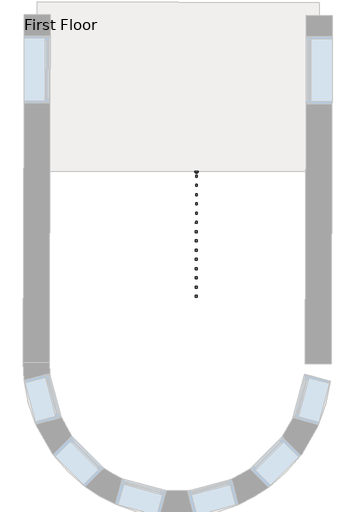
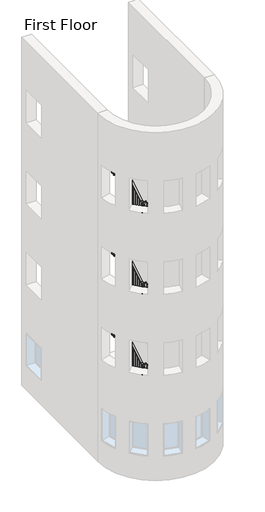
# One storey, part 19 of 23: 1 railing.
"""IFC4 building model written with IfcOpenShell, lengths in millimetres."""

from ifc_helpers import new_model, si_unit, frame, origin, place, context, project, spatial, polyline, outline, extrude, faceted_brep, element, save

model = new_model("IFC4")

# Units and contexts
model_context = context("Model", 3, world=origin())
ifc_project = project(units=[si_unit("LENGTHUNIT", "METRE", prefix="MILLI")], contexts=[model_context])

# Site, building, storey
site = spatial("IfcSite", under=ifc_project)
building = spatial("IfcBuilding", under=site)
storey = spatial("IfcBuildingStorey", under=building, Name="First Floor", Elevation=0.0)

# Railing
placement = place(None, origin())
element("IfcRailing", 1, ObjectType="1100mm", at=placement, inside=storey, context=model_context, shape_type="SolidModel", body=[
    faceted_brep([(-18732.1206493, -38141.9127761, 7347.2483627), (-18732.1206493, -38141.9127761, 7288.5702219), (-18782.1204398, -38141.7680334, 7288.5702219), (-18782.1204398, -38141.7680334, 7347.2483627), (-18738.3746917, -40302.3037238, 8674.1801914), (-18738.5194344, -40352.3035143, 8646.2123781), (-18788.5192249, -40352.1587716, 8646.2123781), (-18788.3744822, -40302.1589811, 8674.1801914), (-18738.3746917, -40302.3037238, 8720.0), (-18738.5194344, -40352.3035143, 8670.0), (-18788.5192249, -40352.1587716, 8670.0), (-18788.3744822, -40302.1589811, 8720.0), (-18738.7365484, -40427.3032001, 8720.0), (-18738.7365484, -40427.3032001, 8670.0), (-18788.5915962, -40377.1586669, 8670.0), (-18788.5915962, -40377.1586669, 8720.0), (-18863.7360247, -40426.9413433, 8720.0), (-18863.7360247, -40426.9413433, 8670.0), (-18863.591282, -40376.9415528, 8670.0), (-18863.591282, -40376.9415528, 8720.0), (-19170.5347391, -40426.0532021, 8720.0), (-19220.5345296, -40425.9084595, 8670.0), (-19220.3897869, -40375.908669, 8670.0), (-19170.3899964, -40376.0534117, 8720.0), (-19170.5347391, -40426.0532021, 8917.87616), (-19220.5345296, -40425.9084595, 8867.87616), (-19220.3897869, -40375.908669, 8867.87616), (-19170.3899964, -40376.0534117, 8917.87616), (-19295.5342154, -40425.6913454, 8917.87616), (-19295.5342154, -40425.6913454, 8867.87616), (-19245.3896822, -40375.8362976, 8867.87616), (-19245.3896822, -40375.8362976, 8917.87616), (-19295.1723586, -40300.6918692, 8917.87616), (-19295.131719, -40286.6533396, 8867.87616), (-19245.1319285, -40286.7980823, 8867.87616), (-19245.1725681, -40300.8366119, 8917.87616), (-19288.9183162, -38140.3009215, 10234.856), (-19238.9185257, -38140.4456642, 10234.856), (-19238.9185257, -38140.4456642, 10176.2980765), (-19288.9183162, -38140.3009215, 10176.2980765)], [[[0, 1, 2, 3]], [[1, 0, 4, 5]], [[2, 1, 5, 6]], [[3, 2, 6, 7]], [[0, 3, 7, 4]], [[5, 4, 8, 9]], [[6, 5, 9, 10]], [[7, 6, 10, 11]], [[4, 7, 11, 8]], [[9, 8, 12, 13]], [[10, 9, 13, 14]], [[11, 10, 14, 15]], [[8, 11, 15, 12]], [[13, 12, 16, 17]], [[14, 13, 17, 18]], [[15, 14, 18, 19]], [[12, 15, 19, 16]], [[17, 16, 20, 21]], [[18, 17, 21, 22]], [[19, 18, 22, 23]], [[16, 19, 23, 20]], [[21, 20, 24, 25]], [[22, 21, 25, 26]], [[23, 22, 26, 27]], [[20, 23, 27, 24]], [[25, 24, 28, 29]], [[26, 25, 29, 30]], [[27, 26, 30, 31]], [[24, 27, 31, 28]], [[29, 28, 32, 33]], [[30, 29, 33, 34]], [[31, 30, 34, 35]], [[28, 31, 35, 32]], [[36, 37, 38, 39]], [[33, 32, 36, 39]], [[34, 33, 39, 38]], [[35, 34, 38, 37]], [[32, 35, 37, 36]]]),
    faceted_brep([(-18732.1206493, -38141.9127761, 4299.2483627), (-18732.1206493, -38141.9127761, 4240.5702219), (-18782.1204398, -38141.7680334, 4240.5702219), (-18782.1204398, -38141.7680334, 4299.2483627), (-18738.3746917, -40302.3037238, 5626.1801914), (-18738.5194344, -40352.3035143, 5598.2123781), (-18788.5192249, -40352.1587716, 5598.2123781), (-18788.3744822, -40302.1589811, 5626.1801914), (-18738.3746917, -40302.3037238, 5672.0), (-18738.5194344, -40352.3035143, 5622.0), (-18788.5192249, -40352.1587716, 5622.0), (-18788.3744822, -40302.1589811, 5672.0), (-18738.7365484, -40427.3032001, 5672.0), (-18738.7365484, -40427.3032001, 5622.0), (-18788.5915962, -40377.1586669, 5622.0), (-18788.5915962, -40377.1586669, 5672.0), (-18863.7360247, -40426.9413433, 5672.0), (-18863.7360247, -40426.9413433, 5622.0), (-18863.591282, -40376.9415528, 5622.0), (-18863.591282, -40376.9415528, 5672.0), (-19170.5347391, -40426.0532021, 5672.0), (-19220.5345296, -40425.9084595, 5622.0), (-19220.3897869, -40375.908669, 5622.0), (-19170.3899964, -40376.0534117, 5672.0), (-19170.5347391, -40426.0532021, 5869.87616), (-19220.5345296, -40425.9084595, 5819.87616), (-19220.3897869, -40375.908669, 5819.87616), (-19170.3899964, -40376.0534117, 5869.87616), (-19295.5342154, -40425.6913454, 5869.87616), (-19295.5342154, -40425.6913454, 5819.87616), (-19245.3896822, -40375.8362976, 5819.87616), (-19245.3896822, -40375.8362976, 5869.87616), (-19295.1723586, -40300.6918692, 5869.87616), (-19295.131719, -40286.6533396, 5819.87616), (-19245.1319285, -40286.7980823, 5819.87616), (-19245.1725681, -40300.8366119, 5869.87616), (-19288.9183162, -38140.3009215, 7186.856), (-19238.9185257, -38140.4456642, 7186.856), (-19238.9185257, -38140.4456642, 7128.2980765), (-19288.9183162, -38140.3009215, 7128.2980765)], [[[0, 1, 2, 3]], [[1, 0, 4, 5]], [[2, 1, 5, 6]], [[3, 2, 6, 7]], [[0, 3, 7, 4]], [[5, 4, 8, 9]], [[6, 5, 9, 10]], [[7, 6, 10, 11]], [[4, 7, 11, 8]], [[9, 8, 12, 13]], [[10, 9, 13, 14]], [[11, 10, 14, 15]], [[8, 11, 15, 12]], [[13, 12, 16, 17]], [[14, 13, 17, 18]], [[15, 14, 18, 19]], [[12, 15, 19, 16]], [[17, 16, 20, 21]], [[18, 17, 21, 22]], [[19, 18, 22, 23]], [[16, 19, 23, 20]], [[21, 20, 24, 25]], [[22, 21, 25, 26]], [[23, 22, 26, 27]], [[20, 23, 27, 24]], [[25, 24, 28, 29]], [[26, 25, 29, 30]], [[27, 26, 30, 31]], [[24, 27, 31, 28]], [[29, 28, 32, 33]], [[30, 29, 33, 34]], [[31, 30, 34, 35]], [[28, 31, 35, 32]], [[36, 37, 38, 39]], [[33, 32, 36, 39]], [[34, 33, 39, 38]], [[35, 34, 38, 37]], [[32, 35, 37, 36]]]),
    faceted_brep([(-18732.1206493, -38141.9127761, 1251.2483627), (-18732.1206493, -38141.9127761, 1192.5702219), (-18782.1204398, -38141.7680334, 1192.5702219), (-18782.1204398, -38141.7680334, 1251.2483627), (-18738.3746917, -40302.3037238, 2578.1801914), (-18738.5194344, -40352.3035143, 2550.2123781), (-18788.5192249, -40352.1587716, 2550.2123781), (-18788.3744822, -40302.1589811, 2578.1801914), (-18738.3746917, -40302.3037238, 2624.0), (-18738.5194344, -40352.3035143, 2574.0), (-18788.5192249, -40352.1587716, 2574.0), (-18788.3744822, -40302.1589811, 2624.0), (-18738.7365484, -40427.3032001, 2624.0), (-18738.7365484, -40427.3032001, 2574.0), (-18788.5915962, -40377.1586669, 2574.0), (-18788.5915962, -40377.1586669, 2624.0), (-18863.7360247, -40426.9413433, 2624.0), (-18863.7360247, -40426.9413433, 2574.0), (-18863.591282, -40376.9415528, 2574.0), (-18863.591282, -40376.9415528, 2624.0), (-19170.5347391, -40426.0532021, 2624.0), (-19220.5345296, -40425.9084595, 2574.0), (-19220.3897869, -40375.908669, 2574.0), (-19170.3899964, -40376.0534117, 2624.0), (-19170.5347391, -40426.0532021, 2821.87616), (-19220.5345296, -40425.9084595, 2771.87616), (-19220.3897869, -40375.908669, 2771.87616), (-19170.3899964, -40376.0534117, 2821.87616), (-19295.5342154, -40425.6913454, 2821.87616), (-19295.5342154, -40425.6913454, 2771.87616), (-19245.3896822, -40375.8362976, 2771.87616), (-19245.3896822, -40375.8362976, 2821.87616), (-19295.1723586, -40300.6918692, 2821.87616), (-19295.131719, -40286.6533396, 2771.87616), (-19245.1319285, -40286.7980823, 2771.87616), (-19245.1725681, -40300.8366119, 2821.87616), (-19288.9183162, -38140.3009215, 4138.856), (-19238.9185257, -38140.4456642, 4138.856), (-19238.9185257, -38140.4456642, 4080.2980765), (-19288.9183162, -38140.3009215, 4080.2980765)], [[[0, 1, 2, 3]], [[1, 0, 4, 5]], [[2, 1, 5, 6]], [[3, 2, 6, 7]], [[0, 3, 7, 4]], [[5, 4, 8, 9]], [[6, 5, 9, 10]], [[7, 6, 10, 11]], [[4, 7, 11, 8]], [[9, 8, 12, 13]], [[10, 9, 13, 14]], [[11, 10, 14, 15]], [[8, 11, 15, 12]], [[13, 12, 16, 17]], [[14, 13, 17, 18]], [[15, 14, 18, 19]], [[12, 15, 19, 16]], [[17, 16, 20, 21]], [[18, 17, 21, 22]], [[19, 18, 22, 23]], [[16, 19, 23, 20]], [[21, 20, 24, 25]], [[22, 21, 25, 26]], [[23, 22, 26, 27]], [[20, 23, 27, 24]], [[25, 24, 28, 29]], [[26, 25, 29, 30]], [[27, 26, 30, 31]], [[24, 27, 31, 28]], [[29, 28, 32, 33]], [[30, 29, 33, 34]], [[31, 30, 34, 35]], [[28, 31, 35, 32]], [[36, 37, 38, 39]], [[33, 32, 36, 39]], [[34, 33, 39, 38]], [[35, 34, 38, 37]], [[32, 35, 37, 36]]]),
    extrude(outline(polyline([(107.62, 0.0), (1240.2582365, 0.0), (1240.2582365, -25.0), (92.38, -25.0), (107.62, 0.0)])), frame((-19251.6656939, -38225.8091206, 10231.8582365), z_axis=(-0.9999958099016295, 0.002894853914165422, 0.0), x_axis=(0.0, 0.0, -1.0)), (0.0, 0.0, 1.0), 25.0),
    extrude(outline(polyline([(107.62, 0.0), (1164.0582365, 0.0), (1164.0582365, -25.0000001), (92.38, -25.0000001), (107.62, 0.0)])), frame((-19252.0275506, -38350.8085969, 10155.6582365), z_axis=(-0.9999958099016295, 0.002894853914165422, 0.0), x_axis=(0.0, 0.0, -1.0)), (0.0, 0.0, 1.0), 25.0),
    extrude(outline(polyline([(107.62, 0.0), (1240.2582365, 0.0), (1240.2582365, -25.0), (92.38, -25.0), (107.62, 0.0)])), frame((-19252.3894074, -38475.8080731, 10079.4582365), z_axis=(-0.9999958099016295, 0.002894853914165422, 0.0), x_axis=(0.0, 0.0, -1.0)), (0.0, 0.0, 1.0), 25.0),
    extrude(outline(polyline([(107.62, 0.0), (1164.0582365, 0.0), (1164.0582365, -25.0000001), (92.38, -25.0000001), (107.62, 0.0)])), frame((-19252.7512641, -38600.8075494, 10003.2582365), z_axis=(-0.9999958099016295, 0.002894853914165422, 0.0), x_axis=(0.0, 0.0, -1.0)), (0.0, 0.0, 1.0), 25.0),
    extrude(outline(polyline([(107.62, 0.0), (1240.2582365, 0.0), (1240.2582365, -25.0), (92.38, -25.0), (107.62, 0.0)])), frame((-19253.1131209, -38725.8070256, 9927.0582365), z_axis=(-0.9999958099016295, 0.002894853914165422, 0.0), x_axis=(0.0, 0.0, -1.0)), (0.0, 0.0, 1.0), 25.0),
    extrude(outline(polyline([(107.62, 0.0), (1164.0582365, 0.0), (1164.0582365, -25.0), (92.38, -25.0), (107.62, 0.0)])), frame((-19253.4749776, -38850.8065018, 9850.8582365), z_axis=(-0.9999958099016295, 0.002894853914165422, 0.0), x_axis=(0.0, 0.0, -1.0)), (0.0, 0.0, 1.0), 25.0),
    extrude(outline(polyline([(107.62, 0.0), (1240.2582365, 0.0), (1240.2582365, -25.0000001), (92.38, -25.0000001), (107.62, 0.0)])), frame((-19253.8368343, -38975.8059781, 9774.6582365), z_axis=(-0.9999958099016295, 0.002894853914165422, 0.0), x_axis=(0.0, 0.0, -1.0)), (0.0, 0.0, 1.0), 25.0),
    extrude(outline(polyline([(107.62, 0.0), (1164.0582365, 0.0), (1164.0582365, -25.0), (92.38, -25.0), (107.62, 0.0)])), frame((-19254.1986911, -39100.8054543, 9698.4582365), z_axis=(-0.9999958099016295, 0.002894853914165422, 0.0), x_axis=(0.0, 0.0, -1.0)), (0.0, 0.0, 1.0), 25.0),
    extrude(outline(polyline([(107.62, 0.0), (1240.2582365, 0.0), (1240.2582365, -25.0), (92.38, -25.0), (107.62, 0.0)])), frame((-19254.5605478, -39225.8049305, 9622.2582365), z_axis=(-0.9999958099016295, 0.002894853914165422, 0.0), x_axis=(0.0, 0.0, -1.0)), (0.0, 0.0, 1.0), 25.0),
    extrude(outline(polyline([(107.62, 0.0), (1164.0582365, 0.0), (1164.0582365, -25.0000001), (92.38, -25.0000001), (107.62, 0.0)])), frame((-19254.9224045, -39350.8044068, 9546.0582365), z_axis=(-0.9999958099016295, 0.002894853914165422, 0.0), x_axis=(0.0, 0.0, -1.0)), (0.0, 0.0, 1.0), 25.0),
    extrude(outline(polyline([(107.62, 0.0), (1240.2582365, 0.0), (1240.2582365, -25.0), (92.38, -25.0), (107.62, 0.0)])), frame((-19255.2842613, -39475.803883, 9469.8582365), z_axis=(-0.9999958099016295, 0.002894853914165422, 0.0), x_axis=(0.0, 0.0, -1.0)), (0.0, 0.0, 1.0), 25.0),
    extrude(outline(polyline([(107.62, 0.0), (1164.0582365, 0.0), (1164.0582365, -25.0000001), (92.38, -25.0000001), (107.62, 0.0)])), frame((-19255.646118, -39600.8033593, 9393.6582365), z_axis=(-0.9999958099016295, 0.002894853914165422, 0.0), x_axis=(0.0, 0.0, -1.0)), (0.0, 0.0, 1.0), 25.0),
    extrude(outline(polyline([(107.62, 0.0), (1240.2582365, 0.0), (1240.2582365, -25.0), (92.38, -25.0), (107.62, 0.0)])), frame((-19256.0079748, -39725.8028355, 9317.4582365), z_axis=(-0.9999958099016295, 0.002894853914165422, 0.0), x_axis=(0.0, 0.0, -1.0)), (0.0, 0.0, 1.0), 25.0),
    extrude(outline(polyline([(107.62, 0.0), (1164.0582365, 0.0), (1164.0582365, -25.0), (92.38, -25.0), (107.62, 0.0)])), frame((-19256.3698315, -39850.8023117, 9241.2582365), z_axis=(-0.9999958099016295, 0.002894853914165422, 0.0), x_axis=(0.0, 0.0, -1.0)), (0.0, 0.0, 1.0), 25.0),
    extrude(outline(polyline([(107.62, 0.0), (1240.2582365, 0.0), (1240.2582365, -25.0000001), (92.38, -25.0000001), (107.62, 0.0)])), frame((-19256.7316882, -39975.801788, 9165.0582365), z_axis=(-0.9999958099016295, 0.002894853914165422, 0.0), x_axis=(0.0, 0.0, -1.0)), (0.0, 0.0, 1.0), 25.0),
    extrude(outline(polyline([(107.62, 0.0), (1164.0582365, 0.0), (1164.0582365, -25.0), (92.38, -25.0), (107.62, 0.0)])), frame((-19257.093545, -40100.8012642, 9088.8582365), z_axis=(-0.9999958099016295, 0.002894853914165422, 0.0), x_axis=(0.0, 0.0, -1.0)), (0.0, 0.0, 1.0), 25.0),
    extrude(outline(polyline([(107.62, 0.0), (1240.2582365, 0.0), (1240.2582365, -25.0000001), (92.38, -25.0000001), (107.62, 0.0)])), frame((-19257.4554017, -40225.8007405, 9012.6582365), z_axis=(-0.9999958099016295, 0.002894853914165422, 0.0), x_axis=(0.0, 0.0, -1.0)), (0.0, 0.0, 1.0), 25.0),
    extrude(outline(polyline([(-19257.8172585, -40350.8002167), (-19282.8171537, -40350.7278453), (-19282.7447824, -40325.7279501), (-19257.7448871, -40325.8003214), (-19257.8172585, -40350.8002167)])), frame((0.0, 0.0, 7772.4), z_axis=(0.0, 0.0, 1.0), x_axis=(1.0, 0.0, 0.0)), (0.0, 0.0, 1.0), 1095.47616),
    extrude(outline(polyline([(-19188.6261059, -40388.5006729), (-19188.6984772, -40413.5005682), (-19213.6983725, -40413.4281968), (-19213.6260011, -40388.4283016), (-19188.6261059, -40388.5006729)])), frame((0.0, 0.0, 7620.0), z_axis=(0.0, 0.0, 1.0), x_axis=(1.0, 0.0, 0.0)), (0.0, 0.0, 1.0), 1050.0),
    extrude(outline(polyline([(-19063.6266296, -40388.8625297), (-19063.699001, -40413.8624249), (-19088.6988962, -40413.7900536), (-19088.6265249, -40388.7901583), (-19063.6266296, -40388.8625297)])), frame((0.0, 0.0, 7620.0), z_axis=(0.0, 0.0, 1.0), x_axis=(1.0, 0.0, 0.0)), (0.0, 0.0, 1.0), 1050.0),
    extrude(outline(polyline([(-18938.6271534, -40389.2243864), (-18938.6995247, -40414.2242817), (-18963.69942, -40414.1519103), (-18963.6270486, -40389.1520151), (-18938.6271534, -40389.2243864)])), frame((0.0, 0.0, 7620.0), z_axis=(0.0, 0.0, 1.0), x_axis=(1.0, 0.0, 0.0)), (0.0, 0.0, 1.0), 1050.0),
    extrude(outline(polyline([(-18813.6276771, -40389.5862432), (-18813.7000485, -40414.5861384), (-18838.6999437, -40414.5137671), (-18838.6275724, -40389.5138718), (-18813.6276771, -40389.5862432)])), frame((0.0, 0.0, 7620.0), z_axis=(0.0, 0.0, 1.0), x_axis=(1.0, 0.0, 0.0)), (0.0, 0.0, 1.0), 1050.0),
    extrude(outline(polyline([(1264.5470481, -25.0), (107.6775819, -25.0), (92.3224182, 0.0), (1264.5470481, 0.0), (1264.5470481, -25.0)])), frame((-18750.9892755, -40341.8673722, 8732.1470481), z_axis=(-0.9999958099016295, 0.00289485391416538, 0.0), x_axis=(0.0, 0.0, -1.0)), (0.0, 0.0, 1.0), 25.0),
    extrude(outline(polyline([(1187.7712294, -25.0000001), (107.6775818, -25.0000001), (92.3224181, 0.0), (1187.7712294, 0.0), (1187.7712294, -25.0000001)])), frame((-18750.6274188, -40216.867896, 8655.3712294), z_axis=(-0.9999958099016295, 0.00289485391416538, 0.0), x_axis=(0.0, 0.0, -1.0)), (0.0, 0.0, 1.0), 25.0),
    extrude(outline(polyline([(1263.3954108, -25.0000001), (107.6775819, -25.0000001), (92.3224181, 0.0), (1263.3954108, 0.0), (1263.3954108, -25.0000001)])), frame((-18750.265562, -40091.8684198, 8578.5954108), z_axis=(-0.9999958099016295, 0.00289485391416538, 0.0), x_axis=(0.0, 0.0, -1.0)), (0.0, 0.0, 1.0), 25.0),
    extrude(outline(polyline([(1186.6195922, -25.0), (107.6775819, -25.0), (92.3224182, 0.0), (1186.6195922, 0.0), (1186.6195922, -25.0)])), frame((-18749.9037053, -39966.8689435, 8501.8195922), z_axis=(-0.9999958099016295, 0.00289485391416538, 0.0), x_axis=(0.0, 0.0, -1.0)), (0.0, 0.0, 1.0), 25.0),
    extrude(outline(polyline([(1262.2437735, -25.0000001), (107.6775818, -25.0000001), (92.3224181, 0.0), (1262.2437735, 0.0), (1262.2437735, -25.0000001)])), frame((-18749.5418486, -39841.8694673, 8425.0437735), z_axis=(-0.9999958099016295, 0.00289485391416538, 0.0), x_axis=(0.0, 0.0, -1.0)), (0.0, 0.0, 1.0), 25.0),
    extrude(outline(polyline([(1185.4679549, -25.0), (107.6775819, -25.0), (92.3224182, 0.0), (1185.4679549, 0.0), (1185.4679549, -25.0)])), frame((-18749.1799918, -39716.869991, 8348.2679549), z_axis=(-0.9999958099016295, 0.00289485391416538, 0.0), x_axis=(0.0, 0.0, -1.0)), (0.0, 0.0, 1.0), 25.0),
    extrude(outline(polyline([(1261.0921362, -25.0), (107.6775818, -25.0), (92.3224181, 0.0), (1261.0921362, 0.0), (1261.0921362, -25.0)])), frame((-18748.8181351, -39591.8705148, 8271.4921362), z_axis=(-0.9999958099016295, 0.00289485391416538, 0.0), x_axis=(0.0, 0.0, -1.0)), (0.0, 0.0, 1.0), 25.0),
    extrude(outline(polyline([(1184.3163176, -25.0000001), (107.6775819, -25.0000001), (92.3224181, 0.0), (1184.3163176, 0.0), (1184.3163176, -25.0000001)])), frame((-18748.4562783, -39466.8710386, 8194.7163176), z_axis=(-0.9999958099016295, 0.00289485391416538, 0.0), x_axis=(0.0, 0.0, -1.0)), (0.0, 0.0, 1.0), 25.0),
    extrude(outline(polyline([(1259.940499, -25.0), (107.6775819, -25.0), (92.3224182, 0.0), (1259.940499, 0.0), (1259.940499, -25.0)])), frame((-18748.0944216, -39341.8715623, 8117.940499), z_axis=(-0.9999958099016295, 0.00289485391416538, 0.0), x_axis=(0.0, 0.0, -1.0)), (0.0, 0.0, 1.0), 25.0),
    extrude(outline(polyline([(1183.1646803, -25.0000001), (107.6775818, -25.0000001), (92.3224181, 0.0), (1183.1646803, 0.0), (1183.1646803, -25.0000001)])), frame((-18747.7325649, -39216.8720861, 8041.1646803), z_axis=(-0.9999958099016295, 0.00289485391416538, 0.0), x_axis=(0.0, 0.0, -1.0)), (0.0, 0.0, 1.0), 25.0),
    extrude(outline(polyline([(1258.7888617, -25.0000001), (107.6775819, -25.0000001), (92.3224182, 0.0), (1258.7888617, 0.0), (1258.7888617, -25.0000001)])), frame((-18747.3707081, -39091.8726099, 7964.3888617), z_axis=(-0.9999958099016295, 0.00289485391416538, 0.0), x_axis=(0.0, 0.0, -1.0)), (0.0, 0.0, 1.0), 25.0),
    extrude(outline(polyline([(1182.013043, -25.0), (107.6775818, -25.0), (92.3224181, 0.0), (1182.013043, 0.0), (1182.013043, -25.0)])), frame((-18747.0088514, -38966.8731336, 7887.613043), z_axis=(-0.9999958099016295, 0.00289485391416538, 0.0), x_axis=(0.0, 0.0, -1.0)), (0.0, 0.0, 1.0), 25.0),
    extrude(outline(polyline([(1257.6372244, -25.0000001), (107.6775819, -25.0000001), (92.3224181, 0.0), (1257.6372244, 0.0), (1257.6372244, -25.0000001)])), frame((-18746.6469947, -38841.8736574, 7810.8372244), z_axis=(-0.9999958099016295, 0.00289485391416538, 0.0), x_axis=(0.0, 0.0, -1.0)), (0.0, 0.0, 1.0), 25.0),
    extrude(outline(polyline([(1180.8614058, -25.0), (107.6775819, -25.0), (92.3224182, 0.0), (1180.8614058, 0.0), (1180.8614058, -25.0)])), frame((-18746.2851379, -38716.8741811, 7734.0614058), z_axis=(-0.9999958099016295, 0.00289485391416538, 0.0), x_axis=(0.0, 0.0, -1.0)), (0.0, 0.0, 1.0), 25.0),
    extrude(outline(polyline([(1256.4855871, -25.0), (107.6775818, -25.0), (92.3224181, 0.0), (1256.4855871, 0.0), (1256.4855871, -25.0)])), frame((-18745.9232812, -38591.8747049, 7657.2855871), z_axis=(-0.9999958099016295, 0.00289485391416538, 0.0), x_axis=(0.0, 0.0, -1.0)), (0.0, 0.0, 1.0), 25.0),
    extrude(outline(polyline([(1179.7097685, -25.0000001), (107.6775819, -25.0000001), (92.3224182, 0.0), (1179.7097685, 0.0), (1179.7097685, -25.0000001)])), frame((-18745.5614244, -38466.8752287, 7580.5097685), z_axis=(-0.9999958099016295, 0.00289485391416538, 0.0), x_axis=(0.0, 0.0, -1.0)), (0.0, 0.0, 1.0), 25.0),
    extrude(outline(polyline([(1255.3339498, -25.0), (107.6775818, -25.0), (92.3224181, 0.0), (1255.3339498, 0.0), (1255.3339498, -25.0)])), frame((-18745.1995677, -38341.8757524, 7503.7339498), z_axis=(-0.9999958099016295, 0.00289485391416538, 0.0), x_axis=(0.0, 0.0, -1.0)), (0.0, 0.0, 1.0), 25.0),
    extrude(outline(polyline([(1178.5581312, -25.0000001), (107.6775819, -25.0000001), (92.3224181, 0.0), (1178.5581312, 0.0), (1178.5581312, -25.0000001)])), frame((-18744.837711, -38216.8762762, 7426.9581312), z_axis=(-0.9999958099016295, 0.00289485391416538, 0.0), x_axis=(0.0, 0.0, -1.0)), (0.0, 0.0, 1.0), 25.0),
    extrude(outline(polyline([(-19257.9981868, -40413.2999548), (-19282.9980821, -40413.2275835), (-19282.9257107, -40388.2276882), (-19257.9258155, -40388.3000596), (-19257.9981868, -40413.2999548)])), frame((0.0, 0.0, 7620.0), z_axis=(0.0, 0.0, 1.0), x_axis=(1.0, 0.0, 0.0)), (0.0, 0.0, 1.0), 1247.87616),
    extrude(outline(polyline([(-18776.1278343, -40389.6948002), (-18751.127939, -40389.7671715), (-18751.2003104, -40414.7670668), (-18776.2002056, -40414.6946954), (-18776.1278343, -40389.6948002)])), frame((0.0, 0.0, 7620.0), z_axis=(0.0, 0.0, 1.0), x_axis=(1.0, 0.0, 0.0)), (0.0, 0.0, 1.0), 1050.0),
    extrude(outline(polyline([(-18776.054305, -40364.2949066), (-18751.0544097, -40364.367278), (-18751.1267811, -40389.3671732), (-18776.1266763, -40389.2948019), (-18776.054305, -40364.2949066)])), frame((0.0, 0.0, 7620.0), z_axis=(0.0, 0.0, 1.0), x_axis=(1.0, 0.0, 0.0)), (0.0, 0.0, 1.0), 1050.0),
    extrude(outline(polyline([(107.62, 0.0), (1277.0780765, 0.0), (1277.0780765, -25.0), (92.38, -25.0), (107.62, 0.0)])), frame((-19251.4908447, -38165.4093737, 10268.6780765), z_axis=(-0.9999958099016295, 0.002894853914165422, 0.0), x_axis=(0.0, 0.0, -1.0)), (0.0, 0.0, 1.0), 25.0),
    extrude(outline(polyline([(1147.8478037, -25.0000001), (107.6775818, -25.0000001), (92.3224181, 0.0), (1147.8478037, 0.0), (1147.8478037, -25.0000001)])), frame((-18744.6929683, -38166.8764857, 7396.2478037), z_axis=(-0.9999958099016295, 0.00289485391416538, 0.0), x_axis=(0.0, 0.0, -1.0)), (0.0, 0.0, 1.0), 25.0),
    extrude(outline(polyline([(107.62, 0.0), (1240.2582365, 0.0), (1240.2582365, -25.0), (92.38, -25.0), (107.62, 0.0)])), frame((-19251.6656939, -38225.8091206, 7183.8582365), z_axis=(-0.9999958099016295, 0.002894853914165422, 0.0), x_axis=(0.0, 0.0, -1.0)), (0.0, 0.0, 1.0), 25.0),
    extrude(outline(polyline([(107.62, 0.0), (1164.0582365, 0.0), (1164.0582365, -25.0000001), (92.38, -25.0000001), (107.62, 0.0)])), frame((-19252.0275506, -38350.8085969, 7107.6582365), z_axis=(-0.9999958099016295, 0.002894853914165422, 0.0), x_axis=(0.0, 0.0, -1.0)), (0.0, 0.0, 1.0), 25.0),
    extrude(outline(polyline([(107.62, 0.0), (1240.2582365, 0.0), (1240.2582365, -25.0), (92.38, -25.0), (107.62, 0.0)])), frame((-19252.3894074, -38475.8080731, 7031.4582365), z_axis=(-0.9999958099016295, 0.002894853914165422, 0.0), x_axis=(0.0, 0.0, -1.0)), (0.0, 0.0, 1.0), 25.0),
    extrude(outline(polyline([(107.62, 0.0), (1164.0582365, 0.0), (1164.0582365, -25.0000001), (92.38, -25.0000001), (107.62, 0.0)])), frame((-19252.7512641, -38600.8075494, 6955.2582365), z_axis=(-0.9999958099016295, 0.002894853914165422, 0.0), x_axis=(0.0, 0.0, -1.0)), (0.0, 0.0, 1.0), 25.0),
    extrude(outline(polyline([(107.62, 0.0), (1240.2582365, 0.0), (1240.2582365, -25.0), (92.38, -25.0), (107.62, 0.0)])), frame((-19253.1131209, -38725.8070256, 6879.0582365), z_axis=(-0.9999958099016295, 0.002894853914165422, 0.0), x_axis=(0.0, 0.0, -1.0)), (0.0, 0.0, 1.0), 25.0),
    extrude(outline(polyline([(107.62, 0.0), (1164.0582365, 0.0), (1164.0582365, -25.0), (92.38, -25.0), (107.62, 0.0)])), frame((-19253.4749776, -38850.8065018, 6802.8582365), z_axis=(-0.9999958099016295, 0.002894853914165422, 0.0), x_axis=(0.0, 0.0, -1.0)), (0.0, 0.0, 1.0), 25.0),
    extrude(outline(polyline([(107.62, 0.0), (1240.2582365, 0.0), (1240.2582365, -25.0000001), (92.38, -25.0000001), (107.62, 0.0)])), frame((-19253.8368343, -38975.8059781, 6726.6582365), z_axis=(-0.9999958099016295, 0.002894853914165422, 0.0), x_axis=(0.0, 0.0, -1.0)), (0.0, 0.0, 1.0), 25.0),
    extrude(outline(polyline([(107.62, 0.0), (1164.0582365, 0.0), (1164.0582365, -25.0), (92.38, -25.0), (107.62, 0.0)])), frame((-19254.1986911, -39100.8054543, 6650.4582365), z_axis=(-0.9999958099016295, 0.002894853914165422, 0.0), x_axis=(0.0, 0.0, -1.0)), (0.0, 0.0, 1.0), 25.0),
    extrude(outline(polyline([(107.62, 0.0), (1240.2582365, 0.0), (1240.2582365, -25.0), (92.38, -25.0), (107.62, 0.0)])), frame((-19254.5605478, -39225.8049305, 6574.2582365), z_axis=(-0.9999958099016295, 0.002894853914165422, 0.0), x_axis=(0.0, 0.0, -1.0)), (0.0, 0.0, 1.0), 25.0),
    extrude(outline(polyline([(107.62, 0.0), (1164.0582365, 0.0), (1164.0582365, -25.0000001), (92.38, -25.0000001), (107.62, 0.0)])), frame((-19254.9224045, -39350.8044068, 6498.0582365), z_axis=(-0.9999958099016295, 0.002894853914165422, 0.0), x_axis=(0.0, 0.0, -1.0)), (0.0, 0.0, 1.0), 25.0),
    extrude(outline(polyline([(107.62, 0.0), (1240.2582365, 0.0), (1240.2582365, -25.0), (92.38, -25.0), (107.62, 0.0)])), frame((-19255.2842613, -39475.803883, 6421.8582365), z_axis=(-0.9999958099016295, 0.002894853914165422, 0.0), x_axis=(0.0, 0.0, -1.0)), (0.0, 0.0, 1.0), 25.0),
    extrude(outline(polyline([(107.62, 0.0), (1164.0582365, 0.0), (1164.0582365, -25.0000001), (92.38, -25.0000001), (107.62, 0.0)])), frame((-19255.646118, -39600.8033593, 6345.6582365), z_axis=(-0.9999958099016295, 0.002894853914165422, 0.0), x_axis=(0.0, 0.0, -1.0)), (0.0, 0.0, 1.0), 25.0),
    extrude(outline(polyline([(107.62, 0.0), (1240.2582365, 0.0), (1240.2582365, -25.0), (92.38, -25.0), (107.62, 0.0)])), frame((-19256.0079748, -39725.8028355, 6269.4582365), z_axis=(-0.9999958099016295, 0.002894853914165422, 0.0), x_axis=(0.0, 0.0, -1.0)), (0.0, 0.0, 1.0), 25.0),
    extrude(outline(polyline([(107.62, 0.0), (1164.0582365, 0.0), (1164.0582365, -25.0), (92.38, -25.0), (107.62, 0.0)])), frame((-19256.3698315, -39850.8023117, 6193.2582365), z_axis=(-0.9999958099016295, 0.002894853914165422, 0.0), x_axis=(0.0, 0.0, -1.0)), (0.0, 0.0, 1.0), 25.0),
    extrude(outline(polyline([(107.62, 0.0), (1240.2582365, 0.0), (1240.2582365, -25.0000001), (92.38, -25.0000001), (107.62, 0.0)])), frame((-19256.7316882, -39975.801788, 6117.0582365), z_axis=(-0.9999958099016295, 0.002894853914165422, 0.0), x_axis=(0.0, 0.0, -1.0)), (0.0, 0.0, 1.0), 25.0),
    extrude(outline(polyline([(107.62, 0.0), (1164.0582365, 0.0), (1164.0582365, -25.0), (92.38, -25.0), (107.62, 0.0)])), frame((-19257.093545, -40100.8012642, 6040.8582365), z_axis=(-0.9999958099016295, 0.002894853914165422, 0.0), x_axis=(0.0, 0.0, -1.0)), (0.0, 0.0, 1.0), 25.0),
    extrude(outline(polyline([(107.62, 0.0), (1240.2582365, 0.0), (1240.2582365, -25.0000001), (92.38, -25.0000001), (107.62, 0.0)])), frame((-19257.4554017, -40225.8007405, 5964.6582365), z_axis=(-0.9999958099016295, 0.002894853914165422, 0.0), x_axis=(0.0, 0.0, -1.0)), (0.0, 0.0, 1.0), 25.0),
    extrude(outline(polyline([(-19257.8172585, -40350.8002167), (-19282.8171537, -40350.7278453), (-19282.7447824, -40325.7279501), (-19257.7448871, -40325.8003214), (-19257.8172585, -40350.8002167)])), frame((0.0, 0.0, 4724.4), z_axis=(0.0, 0.0, 1.0), x_axis=(1.0, 0.0, 0.0)), (0.0, 0.0, 1.0), 1095.47616),
    extrude(outline(polyline([(-19188.6261059, -40388.5006729), (-19188.6984772, -40413.5005682), (-19213.6983725, -40413.4281968), (-19213.6260011, -40388.4283016), (-19188.6261059, -40388.5006729)])), frame((0.0, 0.0, 4572.0), z_axis=(0.0, 0.0, 1.0), x_axis=(1.0, 0.0, 0.0)), (0.0, 0.0, 1.0), 1050.0),
    extrude(outline(polyline([(-19063.6266296, -40388.8625297), (-19063.699001, -40413.8624249), (-19088.6988962, -40413.7900536), (-19088.6265249, -40388.7901583), (-19063.6266296, -40388.8625297)])), frame((0.0, 0.0, 4572.0), z_axis=(0.0, 0.0, 1.0), x_axis=(1.0, 0.0, 0.0)), (0.0, 0.0, 1.0), 1050.0),
    extrude(outline(polyline([(-18938.6271534, -40389.2243864), (-18938.6995247, -40414.2242817), (-18963.69942, -40414.1519103), (-18963.6270486, -40389.1520151), (-18938.6271534, -40389.2243864)])), frame((0.0, 0.0, 4572.0), z_axis=(0.0, 0.0, 1.0), x_axis=(1.0, 0.0, 0.0)), (0.0, 0.0, 1.0), 1050.0),
    extrude(outline(polyline([(-18813.6276771, -40389.5862432), (-18813.7000485, -40414.5861384), (-18838.6999437, -40414.5137671), (-18838.6275724, -40389.5138718), (-18813.6276771, -40389.5862432)])), frame((0.0, 0.0, 4572.0), z_axis=(0.0, 0.0, 1.0), x_axis=(1.0, 0.0, 0.0)), (0.0, 0.0, 1.0), 1050.0),
    extrude(outline(polyline([(1264.5470481, -25.0), (107.6775819, -25.0), (92.3224182, 0.0), (1264.5470481, 0.0), (1264.5470481, -25.0)])), frame((-18750.9892755, -40341.8673722, 5684.1470481), z_axis=(-0.9999958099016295, 0.00289485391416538, 0.0), x_axis=(0.0, 0.0, -1.0)), (0.0, 0.0, 1.0), 25.0),
    extrude(outline(polyline([(1187.7712294, -25.0000001), (107.6775818, -25.0000001), (92.3224181, 0.0), (1187.7712294, 0.0), (1187.7712294, -25.0000001)])), frame((-18750.6274188, -40216.867896, 5607.3712294), z_axis=(-0.9999958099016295, 0.00289485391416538, 0.0), x_axis=(0.0, 0.0, -1.0)), (0.0, 0.0, 1.0), 25.0),
    extrude(outline(polyline([(1263.3954108, -25.0000001), (107.6775819, -25.0000001), (92.3224181, 0.0), (1263.3954108, 0.0), (1263.3954108, -25.0000001)])), frame((-18750.265562, -40091.8684198, 5530.5954108), z_axis=(-0.9999958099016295, 0.00289485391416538, 0.0), x_axis=(0.0, 0.0, -1.0)), (0.0, 0.0, 1.0), 25.0),
    extrude(outline(polyline([(1186.6195922, -25.0), (107.6775819, -25.0), (92.3224182, 0.0), (1186.6195922, 0.0), (1186.6195922, -25.0)])), frame((-18749.9037053, -39966.8689435, 5453.8195922), z_axis=(-0.9999958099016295, 0.00289485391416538, 0.0), x_axis=(0.0, 0.0, -1.0)), (0.0, 0.0, 1.0), 25.0),
    extrude(outline(polyline([(1262.2437735, -25.0000001), (107.6775818, -25.0000001), (92.3224181, 0.0), (1262.2437735, 0.0), (1262.2437735, -25.0000001)])), frame((-18749.5418486, -39841.8694673, 5377.0437735), z_axis=(-0.9999958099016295, 0.00289485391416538, 0.0), x_axis=(0.0, 0.0, -1.0)), (0.0, 0.0, 1.0), 25.0),
    extrude(outline(polyline([(1185.4679549, -25.0), (107.6775819, -25.0), (92.3224182, 0.0), (1185.4679549, 0.0), (1185.4679549, -25.0)])), frame((-18749.1799918, -39716.869991, 5300.2679549), z_axis=(-0.9999958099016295, 0.00289485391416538, 0.0), x_axis=(0.0, 0.0, -1.0)), (0.0, 0.0, 1.0), 25.0),
    extrude(outline(polyline([(1261.0921362, -25.0), (107.6775818, -25.0), (92.3224181, 0.0), (1261.0921362, 0.0), (1261.0921362, -25.0)])), frame((-18748.8181351, -39591.8705148, 5223.4921362), z_axis=(-0.9999958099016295, 0.00289485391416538, 0.0), x_axis=(0.0, 0.0, -1.0)), (0.0, 0.0, 1.0), 25.0),
    extrude(outline(polyline([(1184.3163176, -25.0000001), (107.6775819, -25.0000001), (92.3224181, 0.0), (1184.3163176, 0.0), (1184.3163176, -25.0000001)])), frame((-18748.4562783, -39466.8710386, 5146.7163176), z_axis=(-0.9999958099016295, 0.00289485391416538, 0.0), x_axis=(0.0, 0.0, -1.0)), (0.0, 0.0, 1.0), 25.0),
    extrude(outline(polyline([(1259.940499, -25.0), (107.6775819, -25.0), (92.3224182, 0.0), (1259.940499, 0.0), (1259.940499, -25.0)])), frame((-18748.0944216, -39341.8715623, 5069.940499), z_axis=(-0.9999958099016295, 0.00289485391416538, 0.0), x_axis=(0.0, 0.0, -1.0)), (0.0, 0.0, 1.0), 25.0),
    extrude(outline(polyline([(1183.1646803, -25.0000001), (107.6775818, -25.0000001), (92.3224181, 0.0), (1183.1646803, 0.0), (1183.1646803, -25.0000001)])), frame((-18747.7325649, -39216.8720861, 4993.1646803), z_axis=(-0.9999958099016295, 0.00289485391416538, 0.0), x_axis=(0.0, 0.0, -1.0)), (0.0, 0.0, 1.0), 25.0),
    extrude(outline(polyline([(1258.7888617, -25.0000001), (107.6775819, -25.0000001), (92.3224182, 0.0), (1258.7888617, 0.0), (1258.7888617, -25.0000001)])), frame((-18747.3707081, -39091.8726099, 4916.3888617), z_axis=(-0.9999958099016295, 0.00289485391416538, 0.0), x_axis=(0.0, 0.0, -1.0)), (0.0, 0.0, 1.0), 25.0),
    extrude(outline(polyline([(1182.013043, -25.0), (107.6775818, -25.0), (92.3224181, 0.0), (1182.013043, 0.0), (1182.013043, -25.0)])), frame((-18747.0088514, -38966.8731336, 4839.613043), z_axis=(-0.9999958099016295, 0.00289485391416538, 0.0), x_axis=(0.0, 0.0, -1.0)), (0.0, 0.0, 1.0), 25.0),
    extrude(outline(polyline([(1257.6372244, -25.0000001), (107.6775819, -25.0000001), (92.3224181, 0.0), (1257.6372244, 0.0), (1257.6372244, -25.0000001)])), frame((-18746.6469947, -38841.8736574, 4762.8372244), z_axis=(-0.9999958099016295, 0.00289485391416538, 0.0), x_axis=(0.0, 0.0, -1.0)), (0.0, 0.0, 1.0), 25.0),
    extrude(outline(polyline([(1180.8614058, -25.0), (107.6775819, -25.0), (92.3224182, 0.0), (1180.8614058, 0.0), (1180.8614058, -25.0)])), frame((-18746.2851379, -38716.8741811, 4686.0614058), z_axis=(-0.9999958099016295, 0.00289485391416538, 0.0), x_axis=(0.0, 0.0, -1.0)), (0.0, 0.0, 1.0), 25.0),
    extrude(outline(polyline([(1256.4855871, -25.0), (107.6775818, -25.0), (92.3224181, 0.0), (1256.4855871, 0.0), (1256.4855871, -25.0)])), frame((-18745.9232812, -38591.8747049, 4609.2855871), z_axis=(-0.9999958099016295, 0.00289485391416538, 0.0), x_axis=(0.0, 0.0, -1.0)), (0.0, 0.0, 1.0), 25.0),
    extrude(outline(polyline([(1179.7097685, -25.0000001), (107.6775819, -25.0000001), (92.3224182, 0.0), (1179.7097685, 0.0), (1179.7097685, -25.0000001)])), frame((-18745.5614244, -38466.8752287, 4532.5097685), z_axis=(-0.9999958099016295, 0.00289485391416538, 0.0), x_axis=(0.0, 0.0, -1.0)), (0.0, 0.0, 1.0), 25.0),
    extrude(outline(polyline([(1255.3339498, -25.0), (107.6775818, -25.0), (92.3224181, 0.0), (1255.3339498, 0.0), (1255.3339498, -25.0)])), frame((-18745.1995677, -38341.8757524, 4455.7339498), z_axis=(-0.9999958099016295, 0.00289485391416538, 0.0), x_axis=(0.0, 0.0, -1.0)), (0.0, 0.0, 1.0), 25.0),
    extrude(outline(polyline([(1178.5581312, -25.0000001), (107.6775819, -25.0000001), (92.3224181, 0.0), (1178.5581312, 0.0), (1178.5581312, -25.0000001)])), frame((-18744.837711, -38216.8762762, 4378.9581312), z_axis=(-0.9999958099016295, 0.00289485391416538, 0.0), x_axis=(0.0, 0.0, -1.0)), (0.0, 0.0, 1.0), 25.0),
    extrude(outline(polyline([(-19257.9981868, -40413.2999548), (-19282.9980821, -40413.2275835), (-19282.9257107, -40388.2276882), (-19257.9258155, -40388.3000596), (-19257.9981868, -40413.2999548)])), frame((0.0, 0.0, 4572.0), z_axis=(0.0, 0.0, 1.0), x_axis=(1.0, 0.0, 0.0)), (0.0, 0.0, 1.0), 1247.87616),
    extrude(outline(polyline([(-18776.1278343, -40389.6948002), (-18751.127939, -40389.7671715), (-18751.2003104, -40414.7670668), (-18776.2002056, -40414.6946954), (-18776.1278343, -40389.6948002)])), frame((0.0, 0.0, 4572.0), z_axis=(0.0, 0.0, 1.0), x_axis=(1.0, 0.0, 0.0)), (0.0, 0.0, 1.0), 1050.0),
    extrude(outline(polyline([(-18776.054305, -40364.2949066), (-18751.0544097, -40364.367278), (-18751.1267811, -40389.3671732), (-18776.1266763, -40389.2948019), (-18776.054305, -40364.2949066)])), frame((0.0, 0.0, 4572.0), z_axis=(0.0, 0.0, 1.0), x_axis=(1.0, 0.0, 0.0)), (0.0, 0.0, 1.0), 1050.0),
    extrude(outline(polyline([(107.62, 0.0), (1277.0780765, 0.0), (1277.0780765, -25.0), (92.38, -25.0), (107.62, 0.0)])), frame((-19251.4908447, -38165.4093737, 7220.6780765), z_axis=(-0.9999958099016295, 0.002894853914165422, 0.0), x_axis=(0.0, 0.0, -1.0)), (0.0, 0.0, 1.0), 25.0),
    extrude(outline(polyline([(1147.8478037, -25.0000001), (107.6775818, -25.0000001), (92.3224181, 0.0), (1147.8478037, 0.0), (1147.8478037, -25.0000001)])), frame((-18744.6929683, -38166.8764857, 4348.2478037), z_axis=(-0.9999958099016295, 0.00289485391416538, 0.0), x_axis=(0.0, 0.0, -1.0)), (0.0, 0.0, 1.0), 25.0),
    extrude(outline(polyline([(107.62, 0.0), (1240.2582365, 0.0), (1240.2582365, -25.0), (92.38, -25.0), (107.62, 0.0)])), frame((-19251.6656939, -38225.8091206, 4135.8582365), z_axis=(-0.9999958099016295, 0.002894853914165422, 0.0), x_axis=(0.0, 0.0, -1.0)), (0.0, 0.0, 1.0), 25.0),
    extrude(outline(polyline([(107.62, 0.0), (1164.0582365, 0.0), (1164.0582365, -25.0000001), (92.38, -25.0000001), (107.62, 0.0)])), frame((-19252.0275506, -38350.8085969, 4059.6582365), z_axis=(-0.9999958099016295, 0.002894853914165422, 0.0), x_axis=(0.0, 0.0, -1.0)), (0.0, 0.0, 1.0), 25.0),
    extrude(outline(polyline([(107.62, 0.0), (1240.2582365, 0.0), (1240.2582365, -25.0), (92.38, -25.0), (107.62, 0.0)])), frame((-19252.3894074, -38475.8080731, 3983.4582365), z_axis=(-0.9999958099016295, 0.002894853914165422, 0.0), x_axis=(0.0, 0.0, -1.0)), (0.0, 0.0, 1.0), 25.0),
    extrude(outline(polyline([(107.62, 0.0), (1164.0582365, 0.0), (1164.0582365, -25.0000001), (92.38, -25.0000001), (107.62, 0.0)])), frame((-19252.7512641, -38600.8075494, 3907.2582365), z_axis=(-0.9999958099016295, 0.002894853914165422, 0.0), x_axis=(0.0, 0.0, -1.0)), (0.0, 0.0, 1.0), 25.0),
    extrude(outline(polyline([(107.62, 0.0), (1240.2582365, 0.0), (1240.2582365, -25.0), (92.38, -25.0), (107.62, 0.0)])), frame((-19253.1131209, -38725.8070256, 3831.0582365), z_axis=(-0.9999958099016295, 0.002894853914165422, 0.0), x_axis=(0.0, 0.0, -1.0)), (0.0, 0.0, 1.0), 25.0),
    extrude(outline(polyline([(107.62, 0.0), (1164.0582365, 0.0), (1164.0582365, -25.0), (92.38, -25.0), (107.62, 0.0)])), frame((-19253.4749776, -38850.8065018, 3754.8582365), z_axis=(-0.9999958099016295, 0.002894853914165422, 0.0), x_axis=(0.0, 0.0, -1.0)), (0.0, 0.0, 1.0), 25.0),
    extrude(outline(polyline([(107.62, 0.0), (1240.2582365, 0.0), (1240.2582365, -25.0000001), (92.38, -25.0000001), (107.62, 0.0)])), frame((-19253.8368343, -38975.8059781, 3678.6582365), z_axis=(-0.9999958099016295, 0.002894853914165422, 0.0), x_axis=(0.0, 0.0, -1.0)), (0.0, 0.0, 1.0), 25.0),
    extrude(outline(polyline([(107.62, 0.0), (1164.0582365, 0.0), (1164.0582365, -25.0), (92.38, -25.0), (107.62, 0.0)])), frame((-19254.1986911, -39100.8054543, 3602.4582365), z_axis=(-0.9999958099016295, 0.002894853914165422, 0.0), x_axis=(0.0, 0.0, -1.0)), (0.0, 0.0, 1.0), 25.0),
    extrude(outline(polyline([(107.62, 0.0), (1240.2582365, 0.0), (1240.2582365, -25.0), (92.38, -25.0), (107.62, 0.0)])), frame((-19254.5605478, -39225.8049305, 3526.2582365), z_axis=(-0.9999958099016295, 0.002894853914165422, 0.0), x_axis=(0.0, 0.0, -1.0)), (0.0, 0.0, 1.0), 25.0),
    extrude(outline(polyline([(107.62, 0.0), (1164.0582365, 0.0), (1164.0582365, -25.0000001), (92.38, -25.0000001), (107.62, 0.0)])), frame((-19254.9224045, -39350.8044068, 3450.0582365), z_axis=(-0.9999958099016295, 0.002894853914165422, 0.0), x_axis=(0.0, 0.0, -1.0)), (0.0, 0.0, 1.0), 25.0),
    extrude(outline(polyline([(107.62, 0.0), (1240.2582365, 0.0), (1240.2582365, -25.0), (92.38, -25.0), (107.62, 0.0)])), frame((-19255.2842613, -39475.803883, 3373.8582365), z_axis=(-0.9999958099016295, 0.002894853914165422, 0.0), x_axis=(0.0, 0.0, -1.0)), (0.0, 0.0, 1.0), 25.0),
    extrude(outline(polyline([(107.62, 0.0), (1164.0582365, 0.0), (1164.0582365, -25.0000001), (92.38, -25.0000001), (107.62, 0.0)])), frame((-19255.646118, -39600.8033593, 3297.6582365), z_axis=(-0.9999958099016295, 0.002894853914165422, 0.0), x_axis=(0.0, 0.0, -1.0)), (0.0, 0.0, 1.0), 25.0),
    extrude(outline(polyline([(107.62, 0.0), (1240.2582365, 0.0), (1240.2582365, -25.0), (92.38, -25.0), (107.62, 0.0)])), frame((-19256.0079748, -39725.8028355, 3221.4582365), z_axis=(-0.9999958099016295, 0.002894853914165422, 0.0), x_axis=(0.0, 0.0, -1.0)), (0.0, 0.0, 1.0), 25.0),
    extrude(outline(polyline([(107.62, 0.0), (1164.0582365, 0.0), (1164.0582365, -25.0), (92.38, -25.0), (107.62, 0.0)])), frame((-19256.3698315, -39850.8023117, 3145.2582365), z_axis=(-0.9999958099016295, 0.002894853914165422, 0.0), x_axis=(0.0, 0.0, -1.0)), (0.0, 0.0, 1.0), 25.0),
    extrude(outline(polyline([(107.62, 0.0), (1240.2582365, 0.0), (1240.2582365, -25.0000001), (92.38, -25.0000001), (107.62, 0.0)])), frame((-19256.7316882, -39975.801788, 3069.0582365), z_axis=(-0.9999958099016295, 0.002894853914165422, 0.0), x_axis=(0.0, 0.0, -1.0)), (0.0, 0.0, 1.0), 25.0),
    extrude(outline(polyline([(107.62, 0.0), (1164.0582365, 0.0), (1164.0582365, -25.0), (92.38, -25.0), (107.62, 0.0)])), frame((-19257.093545, -40100.8012642, 2992.8582365), z_axis=(-0.9999958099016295, 0.002894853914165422, 0.0), x_axis=(0.0, 0.0, -1.0)), (0.0, 0.0, 1.0), 25.0),
    extrude(outline(polyline([(107.62, 0.0), (1240.2582365, 0.0), (1240.2582365, -25.0000001), (92.38, -25.0000001), (107.62, 0.0)])), frame((-19257.4554017, -40225.8007405, 2916.6582365), z_axis=(-0.9999958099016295, 0.002894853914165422, 0.0), x_axis=(0.0, 0.0, -1.0)), (0.0, 0.0, 1.0), 25.0),
    extrude(outline(polyline([(-19257.8172585, -40350.8002167), (-19282.8171537, -40350.7278453), (-19282.7447824, -40325.7279501), (-19257.7448871, -40325.8003214), (-19257.8172585, -40350.8002167)])), frame((0.0, 0.0, 1676.4), z_axis=(0.0, 0.0, 1.0), x_axis=(1.0, 0.0, 0.0)), (0.0, 0.0, 1.0), 1095.47616),
    extrude(outline(polyline([(-19188.6261059, -40388.5006729), (-19188.6984772, -40413.5005682), (-19213.6983725, -40413.4281968), (-19213.6260011, -40388.4283016), (-19188.6261059, -40388.5006729)])), frame((0.0, 0.0, 1524.0), z_axis=(0.0, 0.0, 1.0), x_axis=(1.0, 0.0, 0.0)), (0.0, 0.0, 1.0), 1050.0),
    extrude(outline(polyline([(-19063.6266296, -40388.8625297), (-19063.699001, -40413.8624249), (-19088.6988962, -40413.7900536), (-19088.6265249, -40388.7901583), (-19063.6266296, -40388.8625297)])), frame((0.0, 0.0, 1524.0), z_axis=(0.0, 0.0, 1.0), x_axis=(1.0, 0.0, 0.0)), (0.0, 0.0, 1.0), 1050.0),
    extrude(outline(polyline([(-18938.6271534, -40389.2243864), (-18938.6995247, -40414.2242817), (-18963.69942, -40414.1519103), (-18963.6270486, -40389.1520151), (-18938.6271534, -40389.2243864)])), frame((0.0, 0.0, 1524.0), z_axis=(0.0, 0.0, 1.0), x_axis=(1.0, 0.0, 0.0)), (0.0, 0.0, 1.0), 1050.0),
    extrude(outline(polyline([(-18813.6276771, -40389.5862432), (-18813.7000485, -40414.5861384), (-18838.6999437, -40414.5137671), (-18838.6275724, -40389.5138718), (-18813.6276771, -40389.5862432)])), frame((0.0, 0.0, 1524.0), z_axis=(0.0, 0.0, 1.0), x_axis=(1.0, 0.0, 0.0)), (0.0, 0.0, 1.0), 1050.0),
    extrude(outline(polyline([(1264.5470481, -25.0), (107.6775819, -25.0), (92.3224182, 0.0), (1264.5470481, 0.0), (1264.5470481, -25.0)])), frame((-18750.9892755, -40341.8673722, 2636.1470481), z_axis=(-0.9999958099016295, 0.00289485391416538, 0.0), x_axis=(0.0, 0.0, -1.0)), (0.0, 0.0, 1.0), 25.0),
    extrude(outline(polyline([(1187.7712294, -25.0000001), (107.6775818, -25.0000001), (92.3224181, 0.0), (1187.7712294, 0.0), (1187.7712294, -25.0000001)])), frame((-18750.6274188, -40216.867896, 2559.3712294), z_axis=(-0.9999958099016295, 0.00289485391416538, 0.0), x_axis=(0.0, 0.0, -1.0)), (0.0, 0.0, 1.0), 25.0),
    extrude(outline(polyline([(1263.3954108, -25.0000001), (107.6775819, -25.0000001), (92.3224181, 0.0), (1263.3954108, 0.0), (1263.3954108, -25.0000001)])), frame((-18750.265562, -40091.8684198, 2482.5954108), z_axis=(-0.9999958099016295, 0.00289485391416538, 0.0), x_axis=(0.0, 0.0, -1.0)), (0.0, 0.0, 1.0), 25.0),
    extrude(outline(polyline([(1186.6195922, -25.0), (107.6775819, -25.0), (92.3224182, 0.0), (1186.6195922, 0.0), (1186.6195922, -25.0)])), frame((-18749.9037053, -39966.8689435, 2405.8195922), z_axis=(-0.9999958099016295, 0.00289485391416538, 0.0), x_axis=(0.0, 0.0, -1.0)), (0.0, 0.0, 1.0), 25.0),
    extrude(outline(polyline([(1262.2437735, -25.0000001), (107.6775818, -25.0000001), (92.3224181, 0.0), (1262.2437735, 0.0), (1262.2437735, -25.0000001)])), frame((-18749.5418486, -39841.8694673, 2329.0437735), z_axis=(-0.9999958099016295, 0.00289485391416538, 0.0), x_axis=(0.0, 0.0, -1.0)), (0.0, 0.0, 1.0), 25.0),
    extrude(outline(polyline([(1185.4679549, -25.0), (107.6775819, -25.0), (92.3224182, 0.0), (1185.4679549, 0.0), (1185.4679549, -25.0)])), frame((-18749.1799918, -39716.869991, 2252.2679549), z_axis=(-0.9999958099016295, 0.00289485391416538, 0.0), x_axis=(0.0, 0.0, -1.0)), (0.0, 0.0, 1.0), 25.0),
    extrude(outline(polyline([(1261.0921362, -25.0), (107.6775818, -25.0), (92.3224181, 0.0), (1261.0921362, 0.0), (1261.0921362, -25.0)])), frame((-18748.8181351, -39591.8705148, 2175.4921362), z_axis=(-0.9999958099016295, 0.00289485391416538, 0.0), x_axis=(0.0, 0.0, -1.0)), (0.0, 0.0, 1.0), 25.0),
    extrude(outline(polyline([(1184.3163176, -25.0000001), (107.6775819, -25.0000001), (92.3224181, 0.0), (1184.3163176, 0.0), (1184.3163176, -25.0000001)])), frame((-18748.4562783, -39466.8710386, 2098.7163176), z_axis=(-0.9999958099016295, 0.00289485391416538, 0.0), x_axis=(0.0, 0.0, -1.0)), (0.0, 0.0, 1.0), 25.0),
    extrude(outline(polyline([(1259.940499, -25.0), (107.6775819, -25.0), (92.3224182, 0.0), (1259.940499, 0.0), (1259.940499, -25.0)])), frame((-18748.0944216, -39341.8715623, 2021.940499), z_axis=(-0.9999958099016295, 0.00289485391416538, 0.0), x_axis=(0.0, 0.0, -1.0)), (0.0, 0.0, 1.0), 25.0),
    extrude(outline(polyline([(1183.1646803, -25.0000001), (107.6775818, -25.0000001), (92.3224181, 0.0), (1183.1646803, 0.0), (1183.1646803, -25.0000001)])), frame((-18747.7325649, -39216.8720861, 1945.1646803), z_axis=(-0.9999958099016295, 0.00289485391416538, 0.0), x_axis=(0.0, 0.0, -1.0)), (0.0, 0.0, 1.0), 25.0),
    extrude(outline(polyline([(1258.7888617, -25.0000001), (107.6775819, -25.0000001), (92.3224182, 0.0), (1258.7888617, 0.0), (1258.7888617, -25.0000001)])), frame((-18747.3707081, -39091.8726099, 1868.3888617), z_axis=(-0.9999958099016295, 0.00289485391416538, 0.0), x_axis=(0.0, 0.0, -1.0)), (0.0, 0.0, 1.0), 25.0),
    extrude(outline(polyline([(1182.013043, -25.0), (107.6775818, -25.0), (92.3224181, 0.0), (1182.013043, 0.0), (1182.013043, -25.0)])), frame((-18747.0088514, -38966.8731336, 1791.613043), z_axis=(-0.9999958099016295, 0.00289485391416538, 0.0), x_axis=(0.0, 0.0, -1.0)), (0.0, 0.0, 1.0), 25.0),
    extrude(outline(polyline([(1257.6372244, -25.0000001), (107.6775819, -25.0000001), (92.3224181, 0.0), (1257.6372244, 0.0), (1257.6372244, -25.0000001)])), frame((-18746.6469947, -38841.8736574, 1714.8372244), z_axis=(-0.9999958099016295, 0.00289485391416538, 0.0), x_axis=(0.0, 0.0, -1.0)), (0.0, 0.0, 1.0), 25.0),
    extrude(outline(polyline([(1180.8614058, -25.0), (107.6775819, -25.0), (92.3224182, 0.0), (1180.8614058, 0.0), (1180.8614058, -25.0)])), frame((-18746.2851379, -38716.8741811, 1638.0614058), z_axis=(-0.9999958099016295, 0.00289485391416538, 0.0), x_axis=(0.0, 0.0, -1.0)), (0.0, 0.0, 1.0), 25.0),
    extrude(outline(polyline([(1256.4855871, -25.0), (107.6775818, -25.0), (92.3224181, 0.0), (1256.4855871, 0.0), (1256.4855871, -25.0)])), frame((-18745.9232812, -38591.8747049, 1561.2855871), z_axis=(-0.9999958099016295, 0.00289485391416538, 0.0), x_axis=(0.0, 0.0, -1.0)), (0.0, 0.0, 1.0), 25.0),
    extrude(outline(polyline([(1179.7097685, -25.0000001), (107.6775819, -25.0000001), (92.3224182, 0.0), (1179.7097685, 0.0), (1179.7097685, -25.0000001)])), frame((-18745.5614244, -38466.8752287, 1484.5097685), z_axis=(-0.9999958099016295, 0.00289485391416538, 0.0), x_axis=(0.0, 0.0, -1.0)), (0.0, 0.0, 1.0), 25.0),
    extrude(outline(polyline([(1255.3339498, -25.0), (107.6775818, -25.0), (92.3224181, 0.0), (1255.3339498, 0.0), (1255.3339498, -25.0)])), frame((-18745.1995677, -38341.8757524, 1407.7339498), z_axis=(-0.9999958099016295, 0.00289485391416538, 0.0), x_axis=(0.0, 0.0, -1.0)), (0.0, 0.0, 1.0), 25.0),
    extrude(outline(polyline([(1178.5581312, -25.0000001), (107.6775819, -25.0000001), (92.3224181, 0.0), (1178.5581312, 0.0), (1178.5581312, -25.0000001)])), frame((-18744.837711, -38216.8762762, 1330.9581312), z_axis=(-0.9999958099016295, 0.00289485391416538, 0.0), x_axis=(0.0, 0.0, -1.0)), (0.0, 0.0, 1.0), 25.0),
    extrude(outline(polyline([(-19257.9981868, -40413.2999548), (-19282.9980821, -40413.2275835), (-19282.9257107, -40388.2276882), (-19257.9258155, -40388.3000596), (-19257.9981868, -40413.2999548)])), frame((0.0, 0.0, 1524.0), z_axis=(0.0, 0.0, 1.0), x_axis=(1.0, 0.0, 0.0)), (0.0, 0.0, 1.0), 1247.87616),
    extrude(outline(polyline([(-18776.1278343, -40389.6948002), (-18751.127939, -40389.7671715), (-18751.2003104, -40414.7670668), (-18776.2002056, -40414.6946954), (-18776.1278343, -40389.6948002)])), frame((0.0, 0.0, 1524.0), z_axis=(0.0, 0.0, 1.0), x_axis=(1.0, 0.0, 0.0)), (0.0, 0.0, 1.0), 1050.0),
    extrude(outline(polyline([(-18776.054305, -40364.2949066), (-18751.0544097, -40364.367278), (-18751.1267811, -40389.3671732), (-18776.1266763, -40389.2948019), (-18776.054305, -40364.2949066)])), frame((0.0, 0.0, 1524.0), z_axis=(0.0, 0.0, 1.0), x_axis=(1.0, 0.0, 0.0)), (0.0, 0.0, 1.0), 1050.0),
    extrude(outline(polyline([(107.62, 0.0), (1277.0780765, 0.0), (1277.0780765, -25.0), (92.38, -25.0), (107.62, 0.0)])), frame((-19251.4908447, -38165.4093737, 4172.6780765), z_axis=(-0.9999958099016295, 0.002894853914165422, 0.0), x_axis=(0.0, 0.0, -1.0)), (0.0, 0.0, 1.0), 25.0),
    extrude(outline(polyline([(1147.8478037, -25.0000001), (107.6775818, -25.0000001), (92.3224181, 0.0), (1147.8478037, 0.0), (1147.8478037, -25.0000001)])), frame((-18744.6929683, -38166.8764857, 1300.2478037), z_axis=(-0.9999958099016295, 0.00289485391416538, 0.0), x_axis=(0.0, 0.0, -1.0)), (0.0, 0.0, 1.0), 25.0),
])

save(model, "model.ifc")
